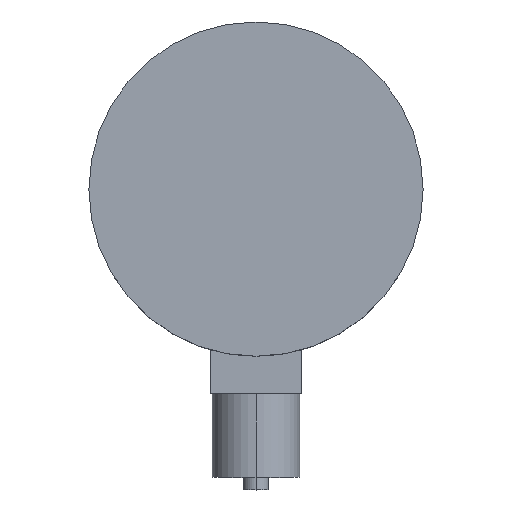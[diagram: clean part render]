
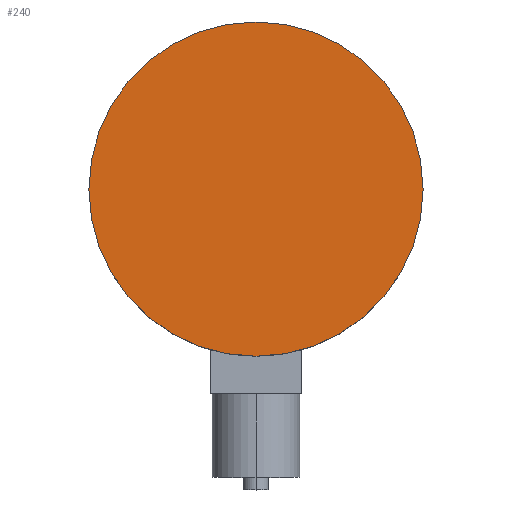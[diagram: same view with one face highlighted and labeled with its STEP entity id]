
A CAD part, top view. The second image highlights one B-rep face of the part: STEP entity #240.
In plain terms, the highlighted planar face has unit normal (0, 0, 1).
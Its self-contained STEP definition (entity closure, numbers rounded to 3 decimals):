
#2 = DIRECTION ( 'NONE',  ( 1., 0., 0. ) ) ;
#37 = CARTESIAN_POINT ( 'NONE',  ( 0., 0., 33.7 ) ) ;
#51 = AXIS2_PLACEMENT_3D ( 'NONE', #37, #310, #2 ) ;
#67 = DIRECTION ( 'NONE',  ( 0., 0., 1. ) ) ;
#70 = CIRCLE ( 'NONE', #182, 40. ) ;
#82 = EDGE_CURVE ( 'NONE', #130, #365, #70, .T. ) ;
#121 = ORIENTED_EDGE ( 'NONE', *, *, #82, .T. ) ;
#130 = VERTEX_POINT ( 'NONE', #338 ) ;
#142 = CARTESIAN_POINT ( 'NONE',  ( 0., 0., 33.7 ) ) ;
#154 = PLANE ( 'NONE',  #262 ) ;
#160 = DIRECTION ( 'NONE',  ( 1., 0., 0. ) ) ;
#182 = AXIS2_PLACEMENT_3D ( 'NONE', #142, #67, #220 ) ;
#183 = CARTESIAN_POINT ( 'NONE',  ( -40., 0., 33.7 ) ) ;
#200 = CARTESIAN_POINT ( 'NONE',  ( 0., 0., 33.7 ) ) ;
#205 = CIRCLE ( 'NONE', #51, 40. ) ;
#220 = DIRECTION ( 'NONE',  ( 1., 0., 0. ) ) ;
#240 = ADVANCED_FACE ( 'NONE', ( #349 ), #154, .T. ) ;
#262 = AXIS2_PLACEMENT_3D ( 'NONE', #200, #461, #160 ) ;
#279 = EDGE_LOOP ( 'NONE', ( #359, #121 ) ) ;
#310 = DIRECTION ( 'NONE',  ( 0., 0., 1. ) ) ;
#338 = CARTESIAN_POINT ( 'NONE',  ( 40., 0., 33.7 ) ) ;
#349 = FACE_OUTER_BOUND ( 'NONE', #279, .T. ) ;
#359 = ORIENTED_EDGE ( 'NONE', *, *, #437, .T. ) ;
#365 = VERTEX_POINT ( 'NONE', #183 ) ;
#437 = EDGE_CURVE ( 'NONE', #365, #130, #205, .T. ) ;
#461 = DIRECTION ( 'NONE',  ( 0., 0., 1. ) ) ;
